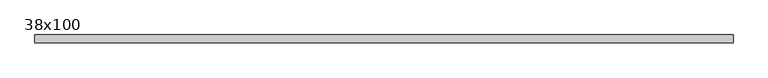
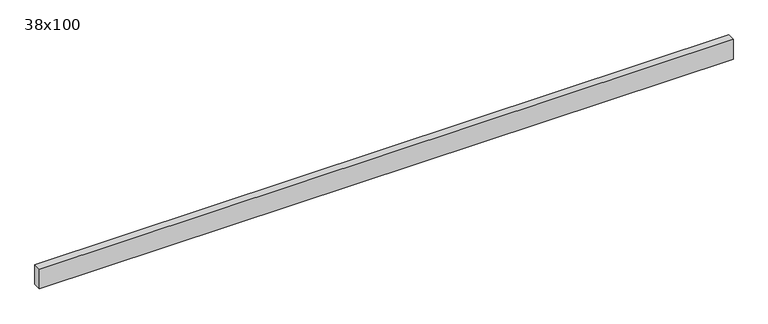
"""IFC4 building model written with IfcOpenShell, lengths in millimetres: beam geometry, Poutre - Bois de construction de dimensions courantes : 38x100."""

from ifc_helpers import new_model, si_unit, frame, origin, place, context, project, spatial, polyline, outline, extrude, source, transform, mapped, element, save


def beam_38x100_0897bc99(model_context):
    return source(origin(), model_context, "Body", "SweptSolid", [
        extrude(outline(polyline([(1587.0, 19.05), (1587.0, -19.05), (-1747.0, -19.05), (-1747.0, 19.05), (1587.0, 19.05)])), frame((0.0, 0.0, -50.0), z_axis=(0.0, 0.0, 1.0), x_axis=(1.0, 0.0, 0.0)), (0.0, 0.0, 1.0), 100.0),
    ])


if __name__ == "__main__":
    model = new_model("IFC4")
    model_context = context("Model", 3, world=origin())
    ifc_project = project(units=[si_unit("LENGTHUNIT", "METRE", prefix="MILLI")], contexts=[model_context])
    site = spatial("IfcSite", under=ifc_project)
    building = spatial("IfcBuilding", under=site)
    placement = place(None, origin())
    beam_38x100_shape = beam_38x100_0897bc99(model_context)
    element("IfcBeam", 1, ObjectType="Poutre - Bois de construction de dimensions courantes : 38x100", at=placement, inside=building, context=model_context, shape_type="MappedRepresentation", body=[
        mapped(beam_38x100_shape, transform((0.0, 0.0, 0.0), x_axis=(1.0, 0.0, 0.0), y_axis=(0.0, 1.0, 0.0), z_axis=(0.0, 0.0, 1.0))),
    ])
    save(model, "model.ifc")
